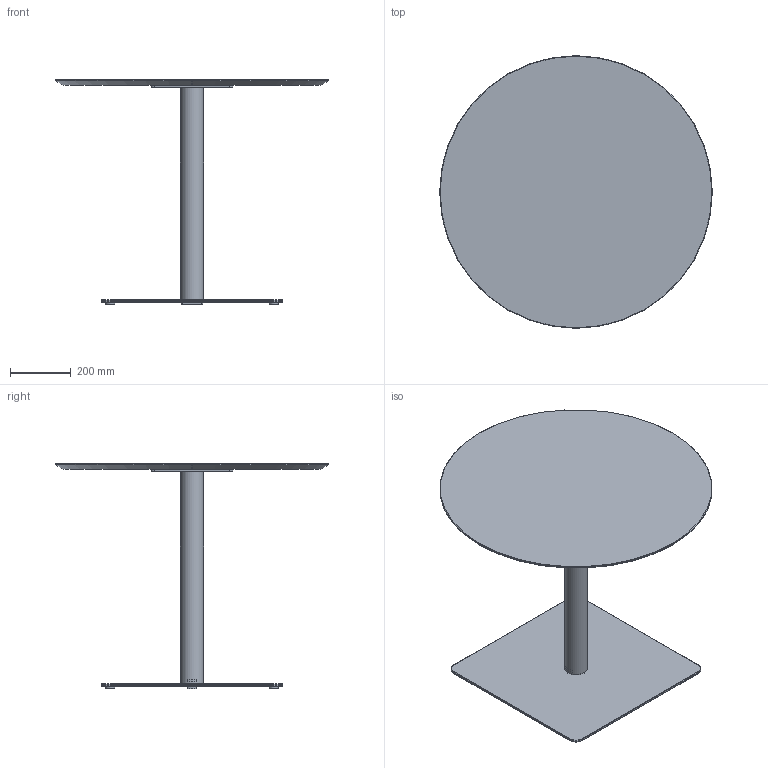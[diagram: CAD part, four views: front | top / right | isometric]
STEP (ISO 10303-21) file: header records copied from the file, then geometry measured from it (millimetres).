
FILE_DESCRIPTION( ('This file contains a STEP AP42 implementation' ,'as created by ZW3D STEP Interface translator.') ,'2;1' );
FILE_NAME( 'Henri - B_Carré - F1 - M5 - 900 x 900 x 750.stp' ,'24 912.162723', (''), ('ZWCAD Software Co.'), 'Version 1.0', 'ZW3D to STEP translator', '' );
FILE_SCHEMA(('AUTOMOTIVE_DESIGN { 1 0 10303 214 1 1 1 1 }'));
Length unit declared in the file: millimetre
Products named in the file (14): 0; PIED BISTROT PARAMETRIQUE_; COLONNE ACIER Ø76 V.02_; TUB-D076-02_; PLA-R76B-01_; CROIX ACIER 370 V.02_; CRX-X370-02_; SOCLE ACIER L 600x600 V.02_; SCL-R600-02_; PLA-R30A-01_; PLA-R30A-01; WUERTH 0276063020 Euro-screw 6.3x2 Verzinkt_; PLATEAU BISTROT PARAMETRIQUE_; insert_m6_13_
Assembly tree (22 placements, depth 3):
  0
  PIED BISTROT PARAMETRIQUE_
    COLONNE ACIER Ø76 V.02_
      TUB-D076-02_
      PLA-R76B-01_  x2
    CROIX ACIER 370 V.02_
      CRX-X370-02_
    SOCLE ACIER L 600x600 V.02_
      SCL-R600-02_
      PLA-R30A-01_
      PLA-R30A-01  x3
    WUERTH 0276063020 Euro-screw 6.3x2 Verzinkt_
    PLATEAU BISTROT PARAMETRIQUE_
      insert_m6_13_  x8
Bounding box: 900 x 900 x 744 mm (x, y, z)
Volume: 15998713.7 mm3; surface area: 2552214.1 mm2
Topology: 19 solids, 19 shells, 537 faces, 1310 edges, 822 vertices
Faces by surface type: plane 262, bspline 121, cylinder 98, cone 55, torus 1
Full cylindrical faces by diameter (mm): 4.88 x1, 6 x8, 6.3 x1, 8 x45, 12 x2, 14 x2, 30 x4, 72 x1, 76 x1
Entity records: 12310 total; most frequent: CARTESIAN_POINT 3396, ORIENTED_EDGE 1624, DIRECTION 1519, EDGE_CURVE 812, VERTEX_POINT 518, VECTOR 513, LINE 513, AXIS2_PLACEMENT_3D 503
